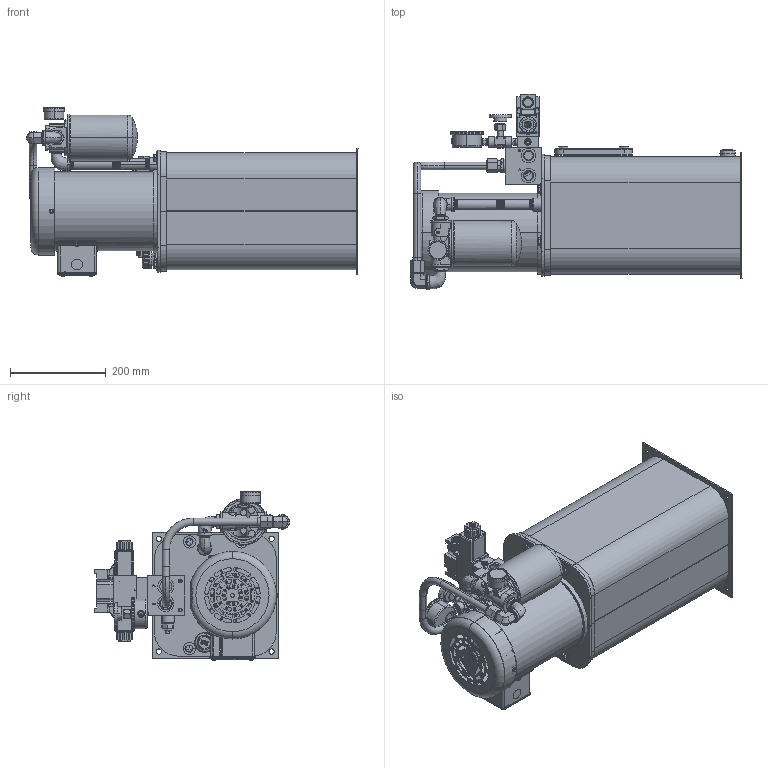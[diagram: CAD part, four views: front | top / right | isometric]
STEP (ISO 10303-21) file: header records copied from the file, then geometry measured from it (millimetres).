
FILE_DESCRIPTION (( 'STEP AP214' ), '1' );
FILE_NAME ('T5V-20-M-P1-F1-059.STEP', '2021-09-27T00:25:53', ( '' ), ( '' ), 'SwSTEP 2.0', 'SolidWorks 2020', '' );
FILE_SCHEMA (( 'AUTOMOTIVE_DESIGN' ));
Length unit declared in the file: inch
Products named in the file (1): T5V-20-M-P1-F1-059
Bounding box: 692.12 x 407.03 x 351.82 mm (x, y, z)
Surface area: 1248132.2 mm2 (no closed solid volume)
Topology: 0 solids, 168 shells, 2064 faces, 9047 edges, 6933 vertices
Faces by surface type: plane 782, cylinder 631, cone 344, bspline 167, torus 110, sphere 30
Entity records: 181089 total; most frequent: CARTESIAN_POINT 85553, DIRECTION 13182, ORIENTED_EDGE 12967, EDGE_CURVE 9024, VERTEX_POINT 6933, AXIS2_PLACEMENT_3D 4455, LINE 4272, VECTOR 4272
